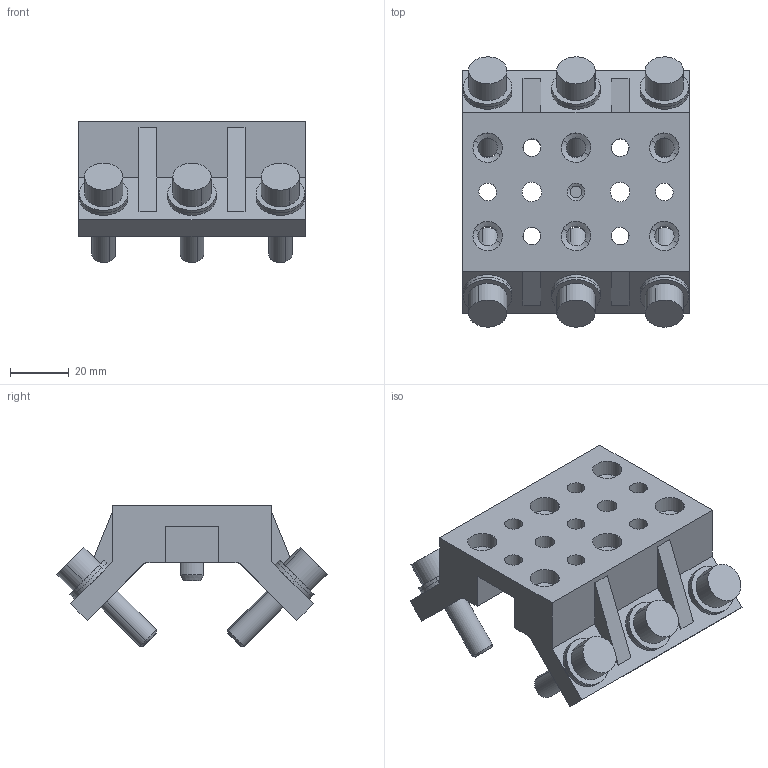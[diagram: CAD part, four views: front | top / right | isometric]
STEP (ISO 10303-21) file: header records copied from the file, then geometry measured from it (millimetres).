
FILE_DESCRIPTION(('CATIA V5 STEP Exchange'),'2;1');
FILE_NAME('C:\Users\15042\Desktop\EGT245.stp','2020-10-23T09:50:41+00:00',('none'),('none'),'CATIA Version 5 Release 21 GA (IN-10)','CATIA V5 STEP AP214','none');
FILE_SCHEMA(('AUTOMOTIVE_DESIGN { 1 0 10303 214 1 1 1 1 }'));
Length unit declared in the file: millimetre
Products named in the file (1): EGT245
Bounding box: 77 x 91.77 x 47.86 mm (x, y, z)
Volume: 109155.7 mm3; surface area: 41419 mm2
Topology: 20 solids, 20 shells, 294 faces, 690 edges, 434 vertices
Faces by surface type: cylinder 146, plane 84, cone 40, torus 24
Entity records: 8934 total; most frequent: CARTESIAN_POINT 1855, ORIENTED_EDGE 1380, DIRECTION 988, EDGE_CURVE 690, AXIS2_PLACEMENT_3D 515, VERTEX_POINT 434, EDGE_LOOP 358, CIRCLE 334
